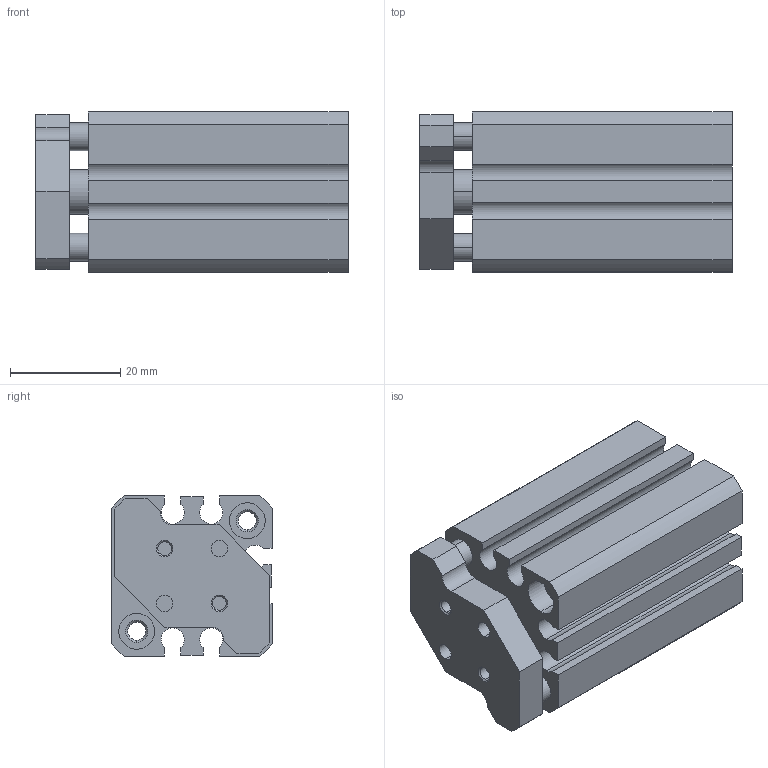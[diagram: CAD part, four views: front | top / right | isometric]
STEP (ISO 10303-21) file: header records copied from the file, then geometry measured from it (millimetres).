
FILE_DESCRIPTION (( 'STEP AP203' ), '1' );
FILE_NAME ('CCMG16-25.STEP', '2020-04-01T18:18:42', ( '' ), ( '' ), 'SwSTEP 2.0', 'SolidWorks 2019', '' );
FILE_SCHEMA (( 'CONFIG_CONTROL_DESIGN' ));
Length unit declared in the file: millimetre
Products named in the file (1): CCMG16-25
Bounding box: 56.5 x 29 x 29 mm (x, y, z)
Volume: 32269.3 mm3; surface area: 18668.2 mm2
Topology: 2 solids, 2 shells, 144 faces, 348 edges, 222 vertices
Faces by surface type: cylinder 68, plane 52, cone 24
Entity records: 4307 total; most frequent: DIRECTION 790, CARTESIAN_POINT 711, ORIENTED_EDGE 688, EDGE_CURVE 344, AXIS2_PLACEMENT_3D 301, VERTEX_POINT 222, LINE 188, VECTOR 188
